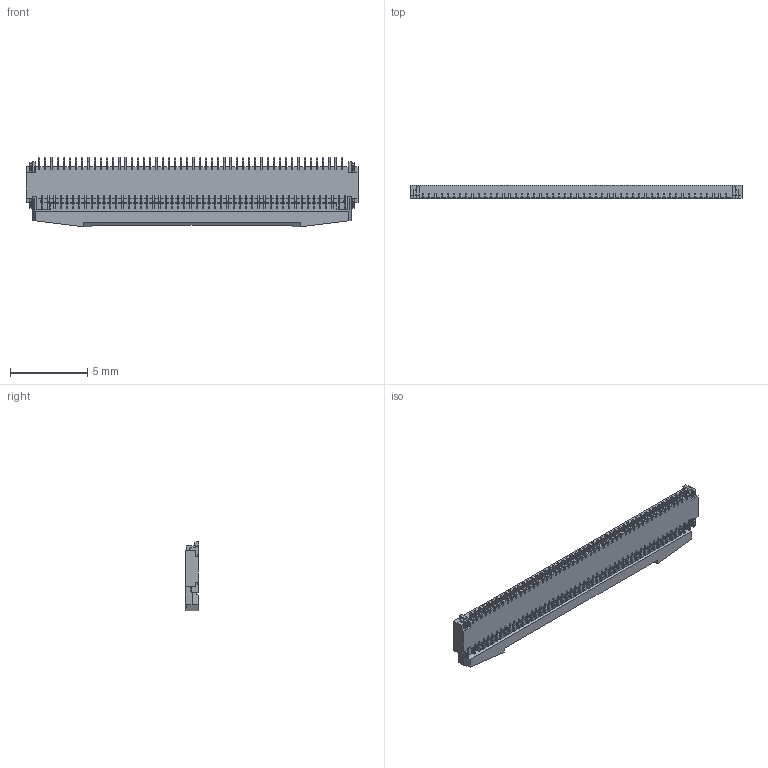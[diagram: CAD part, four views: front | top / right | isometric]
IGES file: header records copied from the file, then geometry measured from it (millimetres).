
Start section: SolidWorks IGES file using analytic representation for surfaces
Global section: file name: Q:\個人専用\宮崎\製品別資料\2-BF\中間ファイル\20617-100E-01C ASS'Y ACT CLOSE IGES R5 ALL.IGS; native system: SolidWorks 2014; preprocessor: SolidWorks 2014; author: ieng2-013; date: 170523.132544; units: millimetre
Bounding box: 21.5 x 0.9 x 4.5 mm (x, y, z)
Surface area: 247 mm2 (no closed solid volume)
Topology: 0 solids, 0 shells, 2150 faces, 13885 edges, 13885 vertices
Faces by surface type: bspline 1571, revolution 579
